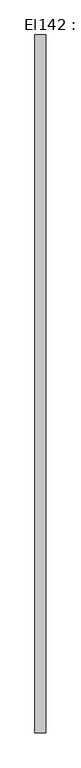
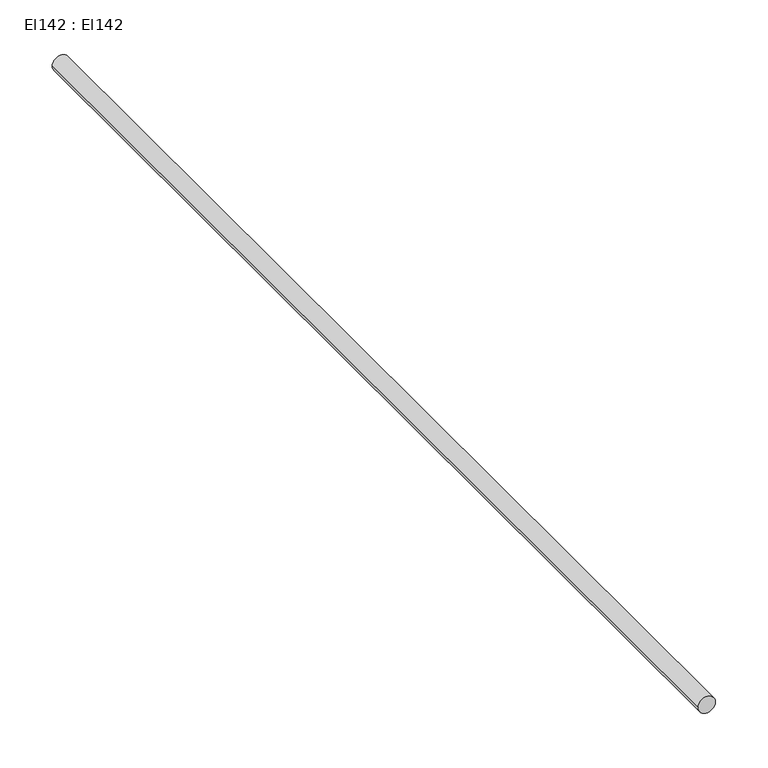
"""IFC4 building model written with IfcOpenShell, lengths in millimetres: cable carrier segment geometry, El142 : El142."""

from ifc_helpers import new_model, si_unit, point, frame, frame_2d, origin, place, context, project, spatial, circle_curve, trimmed, segment, composite_curve, outline, extrude, source, transform, mapped, element, save


def el142_el142_587502d7(model_context):
    return source(origin(), model_context, "Body", "SweptSolid", [
        extrude(outline(composite_curve([segment(trimmed(circle_curve(frame_2d((300.0, 23680.0)), 9.5), [point((300.0, 23670.5))], [point((300.0, 23689.5))], False, "CARTESIAN"), True, "CONTINUOUS"), segment(trimmed(circle_curve(frame_2d((300.0, 23680.0)), 9.5), [point((300.0, 23689.5))], [point((300.0, 23670.5))], False, "CARTESIAN"), True, "CONTINUOUS")], self_intersect=False)), frame((0.0, 10579.411, 0.0), z_axis=(0.0, 1.0, 0.0), x_axis=(0.0, 0.0, 1.0)), (0.0, 0.0, 1.0), 1234.78),
    ])


if __name__ == "__main__":
    model = new_model("IFC4")
    model_context = context("Model", 3, world=origin())
    ifc_project = project(units=[si_unit("LENGTHUNIT", "METRE", prefix="MILLI")], contexts=[model_context])
    site = spatial("IfcSite", under=ifc_project)
    building = spatial("IfcBuilding", under=site)
    placement = place(None, origin())
    el142_el142_shape = el142_el142_587502d7(model_context)
    element("IfcCableCarrierSegment", 1, ObjectType="El142 : El142", at=placement, inside=building, context=model_context, shape_type="MappedRepresentation", body=[
        mapped(el142_el142_shape, transform((0.0, 0.0, 0.0), x_axis=(1.0, 0.0, 0.0), y_axis=(0.0, 1.0, 0.0), z_axis=(0.0, 0.0, 1.0))),
    ])
    save(model, "model.ifc")
